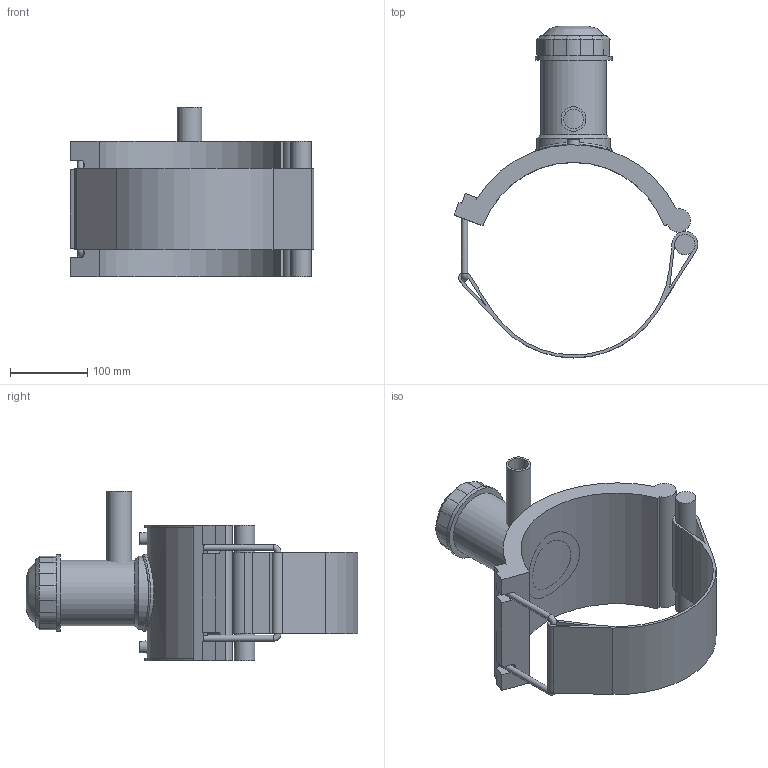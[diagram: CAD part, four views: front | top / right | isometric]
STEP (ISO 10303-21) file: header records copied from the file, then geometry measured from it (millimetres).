
FILE_DESCRIPTION(/* description */ (''),/* implementation_level */ '2;1');
FILE_NAME(/* name */ 'C:\Dropbox\KIMPROJECTS-Inventor 2019\99-16-3568-Processing\ElectroFusion Fittings\4963P4\stp\4963P4250032.stp',/* time_stamp */ '2022-03-17T11:33:05+02:00',/* author */ ('KIM'),/* organization */ (''),/* preprocessor_version */ 'ST-DEVELOPER v17.2',/* originating_system */ 'Autodesk Inventor 2019',/* authorisation */ '');
FILE_SCHEMA (('AUTOMOTIVE_DESIGN { 1 0 10303 214 3 1 1 }'));
Length unit declared in the file: millimetre
Products named in the file (1): 4963P4250032
Bounding box: 316.46 x 430.75 x 220 mm (x, y, z)
Volume: 2366193.9 mm3; surface area: 422962.9 mm2
Topology: 3 solids, 3 shells, 118 faces, 297 edges, 193 vertices
Faces by surface type: plane 65, cylinder 38, cone 11, torus 2, bspline 2
Full cylindrical faces by diameter (mm): 4 x2, 8 x2, 10 x2, 25.6 x1, 26.346 x1, 32 x1, 70 x1, 85 x1, 95 x1, 100 x2
Entity records: 4041 total; most frequent: CARTESIAN_POINT 1063, DIRECTION 631, ORIENTED_EDGE 596, EDGE_CURVE 298, AXIS2_PLACEMENT_3D 229, VERTEX_POINT 193, LINE 173, VECTOR 173
